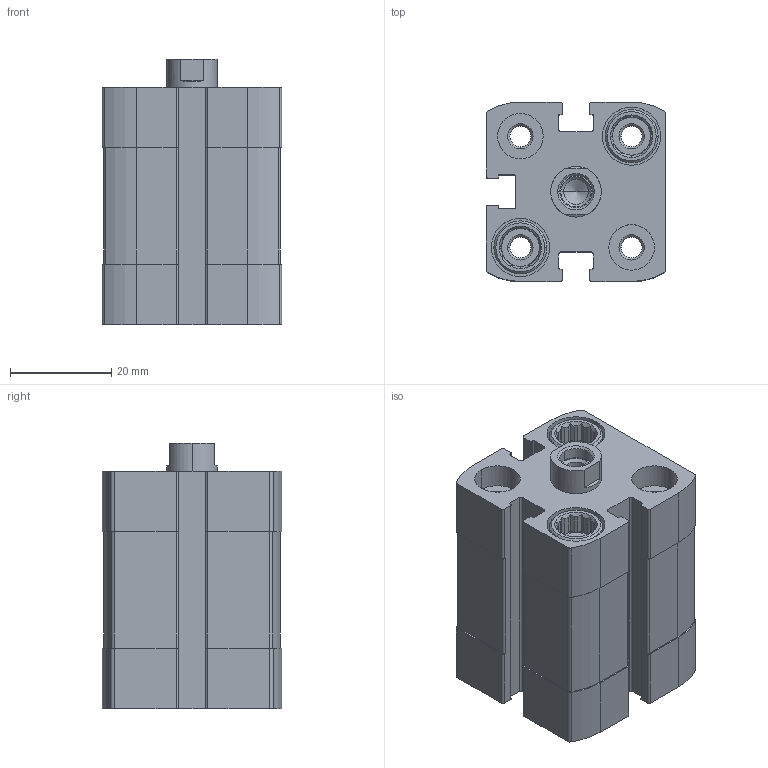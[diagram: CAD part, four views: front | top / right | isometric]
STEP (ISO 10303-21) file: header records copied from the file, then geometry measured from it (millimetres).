
FILE_DESCRIPTION (( 'STEP AP203' ), '1' );
FILE_NAME ('CCN20-10F.STEP', '2017-03-28T15:13:12', ( '' ), ( '' ), 'SwSTEP 2.0', 'SolidWorks 2016', '' );
FILE_SCHEMA (( 'CONFIG_CONTROL_DESIGN' ));
Length unit declared in the file: millimetre
Products named in the file (3): CCN-10_(KS); CCN20-10F; CCN-10---(Z)
Assembly tree (2 placements, depth 2):
  CCN20-10F
    CCN-10---(Z)
    CCN-10_(KS)
Bounding box: 35.5 x 35.5 x 52.5 mm (x, y, z)
Volume: 44968.5 mm3; surface area: 19985.1 mm2
Topology: 2 solids, 2 shells, 407 faces, 1082 edges, 709 vertices
Faces by surface type: plane 231, cylinder 134, cone 42
Entity records: 13141 total; most frequent: CARTESIAN_POINT 2495, DIRECTION 2220, ORIENTED_EDGE 2160, EDGE_CURVE 1080, AXIS2_PLACEMENT_3D 826, VERTEX_POINT 709, LINE 568, VECTOR 568
